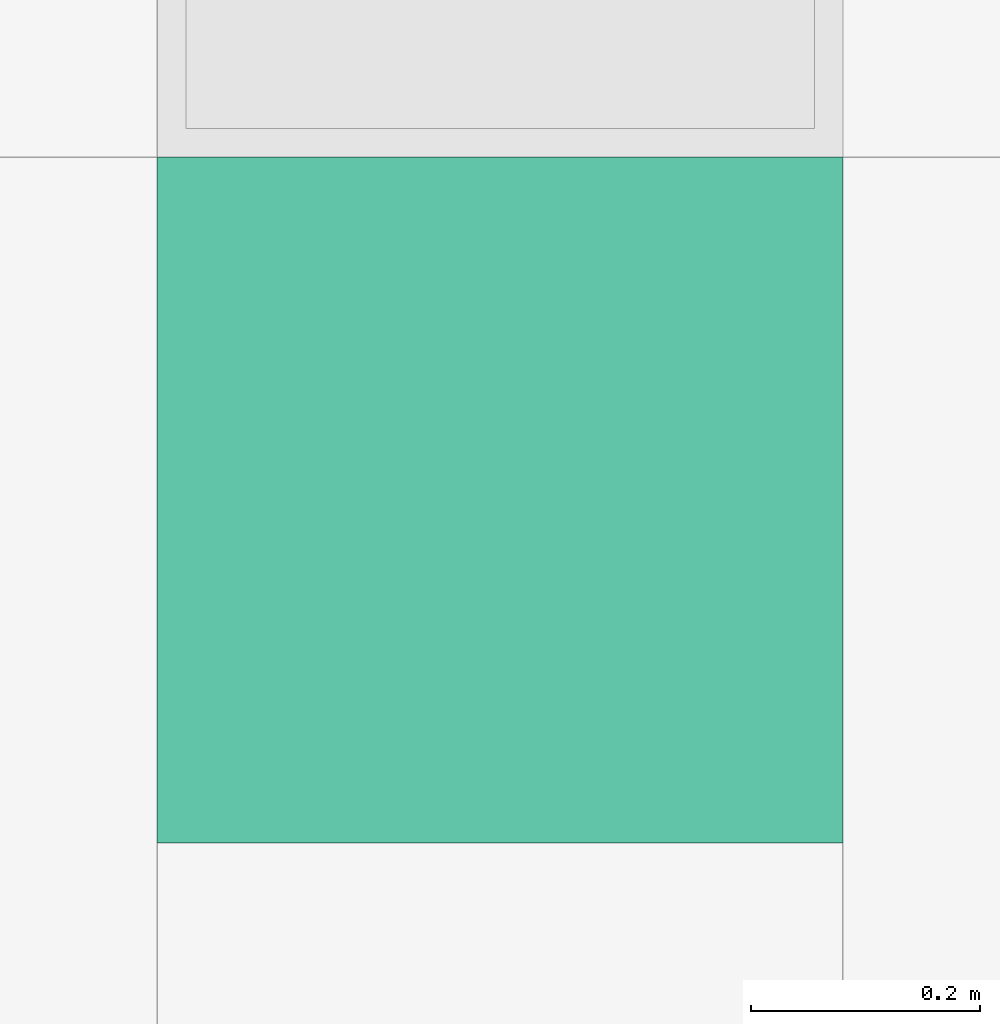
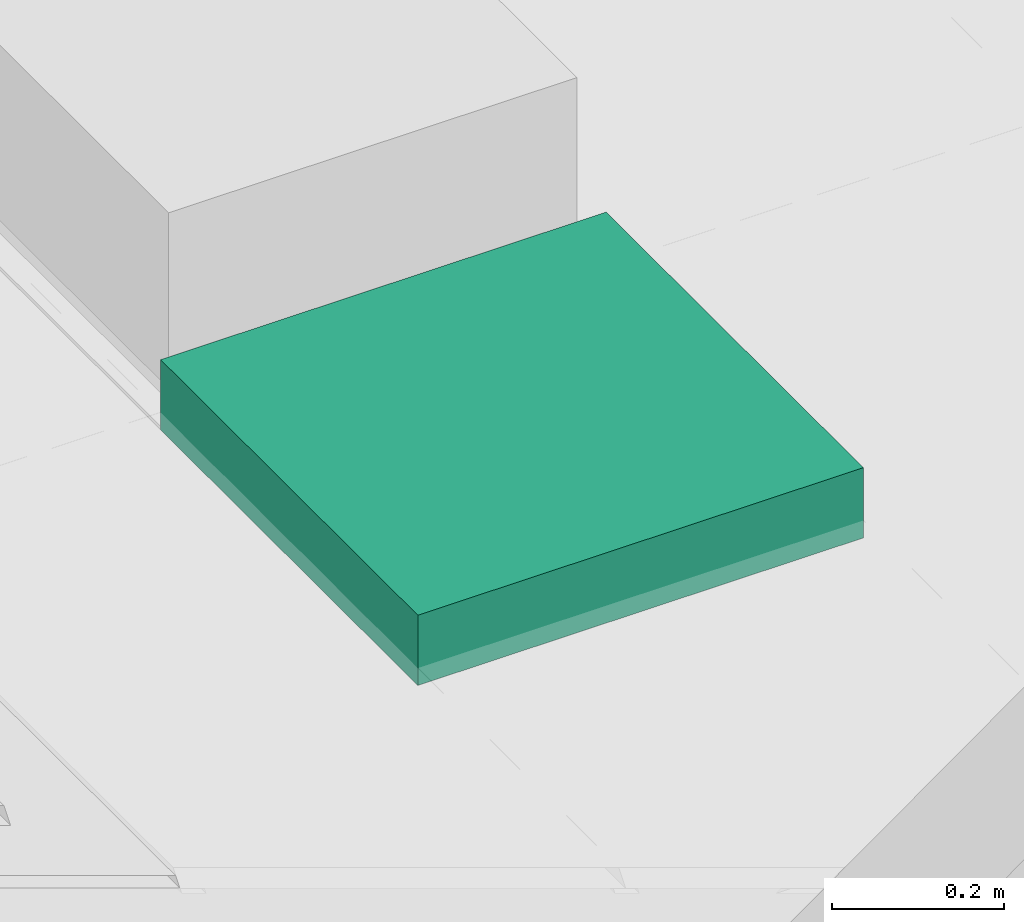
# One storey, part 217 of 347: 1 flow terminal.
"""IFC2X3 building model written with IfcOpenShell, lengths in millimetres."""

from ifc_helpers import new_model, entity, si_unit, converted_unit, derived_unit, money_unit, direction, frame, origin_with_axes, place, context, subcontext, project, spatial, open_shell, faceted_brep, surface_model, source, transform, mapped, type_object, type_shapes, element, save


model = new_model("IFC2X3")

# Units and contexts
model_context = context("Model", 3, precision=0.01, world=origin_with_axes(), true_north=direction((0.0, 1.0)))
plan_context = context("Plan", 3, precision=0.01, world=origin_with_axes(), true_north=direction((0.0, 1.0)))
body_context = subcontext(model_context, "Body", "Model", "MODEL_VIEW")
ifc_project = project(units=[si_unit("LENGTHUNIT", "METRE", prefix="MILLI"), si_unit("AREAUNIT", "SQUARE_METRE"), si_unit("VOLUMEUNIT", "CUBIC_METRE"), converted_unit("PLANEANGLEUNIT", "DEGREE", entity("IfcPlaneAngleMeasure", 0.0174532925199), si_unit("PLANEANGLEUNIT", "RADIAN"), dimensions=[0, 0, 0, 0, 0, 0, 0]), money_unit("EUR"), converted_unit("TIMEUNIT", "Year", entity("IfcTimeMeasure", 31556926.0), si_unit("TIMEUNIT", "SECOND"), dimensions=[0, 0, 1, 0, 0, 0, 0]), si_unit("MASSUNIT", "GRAM", prefix="KILO"), si_unit("THERMODYNAMICTEMPERATUREUNIT", "DEGREE_CELSIUS"), si_unit("LUMINOUSINTENSITYUNIT", "LUMEN"), si_unit("ENERGYUNIT", "JOULE", prefix="MEGA"), derived_unit("THERMALCONDUCTANCEUNIT", [(si_unit("POWERUNIT", "WATT"), 1), (si_unit("LENGTHUNIT", "METRE"), -1), (si_unit("THERMODYNAMICTEMPERATUREUNIT", "KELVIN"), -1)]), derived_unit("SPECIFICHEATCAPACITYUNIT", [(si_unit("ENERGYUNIT", "JOULE"), 1), (si_unit("MASSUNIT", "GRAM", prefix="KILO"), -1), (si_unit("THERMODYNAMICTEMPERATUREUNIT", "KELVIN"), -1)]), derived_unit("MASSDENSITYUNIT", [(si_unit("MASSUNIT", "GRAM", prefix="KILO"), 1), (si_unit("VOLUMEUNIT", "CUBIC_METRE"), -1)])], contexts=[model_context, plan_context])

# Site, building, storey
site_placement = place(None, origin_with_axes())
site = spatial("IfcSite", under=ifc_project, at=site_placement, Name="Site", CompositionType="ELEMENT")
building_placement = place(site_placement, origin_with_axes())
building = spatial("IfcBuilding", under=site, at=building_placement, Name="Naam gebouw", CompositionType="ELEMENT")
storey_placement = place(building_placement, origin_with_axes())
storey = spatial("IfcBuildingStorey", under=building, at=storey_placement, Name="begane grond", CompositionType="ELEMENT", Elevation=0.0)

# Flow terminal
lamp_type = type_object("IfcLampType", Name="TL plafond 25", PredefinedType="NOTDEFINED")
shared_shape = source(origin_with_axes(), body_context, "Body", "SurfaceModel", [
    faceted_brep([(0.0, 0.0, -100.0), (600.0, 0.0, -100.0), (600.0, 0.0, 0.0), (0.0, 0.0, 0.0), (0.0, 600.0, -100.0), (600.0, 600.0, -100.0), (40.0, 40.0, -100.0), (560.0, 40.0, -100.0), (560.0, 560.0, -100.0), (40.0, 560.0, -100.0), (600.0, 600.0, 0.0), (0.0, 600.0, 0.0), (40.0, 40.0, 0.0), (40.0, 560.0, 0.0), (560.0, 560.0, 0.0), (560.0, 40.0, 0.0)], [[[0, 1, 2, 3]], [[0, 4, 5, 1], [6, 7, 8, 9]], [[1, 5, 10, 2]], [[3, 2, 10, 11], [12, 13, 14, 15]], [[4, 0, 3, 11]], [[5, 4, 11, 10]], [[7, 6, 12, 15]], [[8, 7, 15, 14]], [[9, 8, 14, 13]], [[6, 9, 13, 12]]]),
    faceted_brep([(40.0, 40.0, -16.3333333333), (560.0, 40.0, -16.3333333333), (560.0, 40.0, 0.0), (40.0, 40.0, 0.0), (40.0, 560.0, -16.3333333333), (560.0, 560.0, -16.3333333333), (560.0, 560.0, 0.0), (40.0, 560.0, 0.0)], [[[0, 1, 2, 3]], [[0, 4, 5, 1]], [[1, 5, 6, 2]], [[3, 2, 6, 7]], [[4, 0, 3, 7]], [[5, 4, 7, 6]]]),
    surface_model("IfcShellBasedSurfaceModel", [(559.0, 41.0, -100.0), (40.0, 41.0, -100.0), (40.0, 559.0, -100.0), (559.0, 559.0, -100.0)], [open_shell([[[0, 1, 2, 3]]])]),
    faceted_brep([(40.0, 40.0, -100.0), (560.0, 40.0, -100.0), (560.0, 40.0, -60.0), (40.0, 40.0, -60.0), (40.0, 560.0, -100.0), (560.0, 560.0, -100.0), (41.0, 41.0, -100.0), (559.0, 41.0, -100.0), (559.0, 559.0, -100.0), (41.0, 559.0, -100.0), (560.0, 560.0, -60.0), (40.0, 560.0, -60.0), (41.0, 41.0, -60.0), (41.0, 559.0, -60.0), (559.0, 559.0, -60.0), (559.0, 41.0, -60.0)], [[[0, 1, 2, 3]], [[0, 4, 5, 1], [6, 7, 8, 9]], [[1, 5, 10, 2]], [[3, 2, 10, 11], [12, 13, 14, 15]], [[4, 0, 3, 11]], [[5, 4, 11, 10]], [[7, 6, 12, 15]], [[8, 7, 15, 14]], [[9, 8, 14, 13]], [[6, 9, 13, 12]]]),
    faceted_brep([(40.0, 144.0, -48.3333333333), (40.0, 149.740251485, -47.191526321), (560.0, 149.740251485, -47.191526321), (560.0, 144.0, -48.3333333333), (40.0, 138.259748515, -47.191526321), (40.0, 133.393398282, -43.9399350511), (40.0, 130.141807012, -39.0735848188), (40.0, 129.0, -33.3333333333), (40.0, 130.141807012, -27.5930818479), (40.0, 133.393398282, -22.7267316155), (40.0, 138.259748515, -19.4751403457), (40.0, 144.0, -18.3333333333), (40.0, 149.740251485, -19.4751403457), (40.0, 154.606601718, -22.7267316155), (40.0, 157.858192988, -27.5930818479), (40.0, 159.0, -33.3333333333), (40.0, 157.858192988, -39.0735848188), (40.0, 154.606601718, -43.9399350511), (40.0, 144.0, -46.3333333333), (40.0, 148.974884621, -45.343767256), (40.0, 153.192388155, -42.5257214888), (40.0, 156.010433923, -38.3082179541), (40.0, 157.0, -33.3333333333), (40.0, 156.010433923, -28.3584487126), (40.0, 153.192388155, -24.1409451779), (40.0, 148.974884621, -21.3228994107), (40.0, 144.0, -20.3333333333), (40.0, 139.025115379, -21.3228994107), (40.0, 134.807611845, -24.1409451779), (40.0, 131.989566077, -28.3584487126), (40.0, 131.0, -33.3333333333), (40.0, 131.989566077, -38.3082179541), (40.0, 134.807611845, -42.5257214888), (40.0, 139.025115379, -45.343767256), (560.0, 154.606601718, -43.9399350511), (560.0, 157.858192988, -39.0735848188), (560.0, 159.0, -33.3333333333), (560.0, 157.858192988, -27.5930818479), (560.0, 154.606601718, -22.7267316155), (560.0, 149.740251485, -19.4751403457), (560.0, 144.0, -18.3333333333), (560.0, 138.259748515, -19.4751403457), (560.0, 133.393398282, -22.7267316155), (560.0, 130.141807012, -27.5930818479), (560.0, 129.0, -33.3333333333), (560.0, 130.141807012, -39.0735848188), (560.0, 133.393398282, -43.9399350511), (560.0, 138.259748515, -47.191526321), (560.0, 144.0, -46.3333333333), (560.0, 139.025115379, -45.343767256), (560.0, 134.807611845, -42.5257214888), (560.0, 131.989566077, -38.3082179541), (560.0, 131.0, -33.3333333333), (560.0, 131.989566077, -28.3584487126), (560.0, 134.807611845, -24.1409451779), (560.0, 139.025115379, -21.3228994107), (560.0, 144.0, -20.3333333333), (560.0, 148.974884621, -21.3228994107), (560.0, 153.192388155, -24.1409451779), (560.0, 156.010433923, -28.3584487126), (560.0, 157.0, -33.3333333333), (560.0, 156.010433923, -38.3082179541), (560.0, 153.192388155, -42.5257214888), (560.0, 148.974884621, -45.343767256)], [[[0, 1, 2, 3]], [[0, 4, 5, 6, 7, 8, 9, 10, 11, 12, 13, 14, 15, 16, 17, 1], [18, 19, 20, 21, 22, 23, 24, 25, 26, 27, 28, 29, 30, 31, 32, 33]], [[1, 17, 34, 2]], [[3, 2, 34, 35, 36, 37, 38, 39, 40, 41, 42, 43, 44, 45, 46, 47], [48, 49, 50, 51, 52, 53, 54, 55, 56, 57, 58, 59, 60, 61, 62, 63]], [[4, 0, 3, 47]], [[5, 4, 47, 46]], [[6, 5, 46, 45]], [[7, 6, 45, 44]], [[8, 7, 44, 43]], [[9, 8, 43, 42]], [[10, 9, 42, 41]], [[11, 10, 41, 40]], [[12, 11, 40, 39]], [[13, 12, 39, 38]], [[14, 13, 38, 37]], [[15, 14, 37, 36]], [[16, 15, 36, 35]], [[17, 16, 35, 34]], [[19, 18, 48, 63]], [[20, 19, 63, 62]], [[21, 20, 62, 61]], [[22, 21, 61, 60]], [[23, 22, 60, 59]], [[24, 23, 59, 58]], [[25, 24, 58, 57]], [[26, 25, 57, 56]], [[27, 26, 56, 55]], [[28, 27, 55, 54]], [[29, 28, 54, 53]], [[30, 29, 53, 52]], [[31, 30, 52, 51]], [[32, 31, 51, 50]], [[33, 32, 50, 49]], [[18, 33, 49, 48]]]),
    faceted_brep([(40.0, 248.0, -48.3333333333), (40.0, 253.740251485, -47.191526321), (560.0, 253.740251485, -47.191526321), (560.0, 248.0, -48.3333333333), (40.0, 242.259748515, -47.191526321), (40.0, 237.393398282, -43.9399350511), (40.0, 234.141807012, -39.0735848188), (40.0, 233.0, -33.3333333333), (40.0, 234.141807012, -27.5930818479), (40.0, 237.393398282, -22.7267316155), (40.0, 242.259748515, -19.4751403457), (40.0, 248.0, -18.3333333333), (40.0, 253.740251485, -19.4751403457), (40.0, 258.606601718, -22.7267316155), (40.0, 261.858192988, -27.5930818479), (40.0, 263.0, -33.3333333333), (40.0, 261.858192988, -39.0735848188), (40.0, 258.606601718, -43.9399350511), (40.0, 248.0, -46.3333333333), (40.0, 252.974884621, -45.343767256), (40.0, 257.192388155, -42.5257214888), (40.0, 260.010433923, -38.3082179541), (40.0, 261.0, -33.3333333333), (40.0, 260.010433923, -28.3584487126), (40.0, 257.192388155, -24.1409451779), (40.0, 252.974884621, -21.3228994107), (40.0, 248.0, -20.3333333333), (40.0, 243.025115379, -21.3228994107), (40.0, 238.807611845, -24.1409451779), (40.0, 235.989566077, -28.3584487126), (40.0, 235.0, -33.3333333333), (40.0, 235.989566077, -38.3082179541), (40.0, 238.807611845, -42.5257214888), (40.0, 243.025115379, -45.343767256), (560.0, 258.606601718, -43.9399350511), (560.0, 261.858192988, -39.0735848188), (560.0, 263.0, -33.3333333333), (560.0, 261.858192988, -27.5930818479), (560.0, 258.606601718, -22.7267316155), (560.0, 253.740251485, -19.4751403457), (560.0, 248.0, -18.3333333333), (560.0, 242.259748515, -19.4751403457), (560.0, 237.393398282, -22.7267316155), (560.0, 234.141807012, -27.5930818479), (560.0, 233.0, -33.3333333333), (560.0, 234.141807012, -39.0735848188), (560.0, 237.393398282, -43.9399350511), (560.0, 242.259748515, -47.191526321), (560.0, 248.0, -46.3333333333), (560.0, 243.025115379, -45.343767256), (560.0, 238.807611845, -42.5257214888), (560.0, 235.989566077, -38.3082179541), (560.0, 235.0, -33.3333333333), (560.0, 235.989566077, -28.3584487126), (560.0, 238.807611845, -24.1409451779), (560.0, 243.025115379, -21.3228994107), (560.0, 248.0, -20.3333333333), (560.0, 252.974884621, -21.3228994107), (560.0, 257.192388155, -24.1409451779), (560.0, 260.010433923, -28.3584487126), (560.0, 261.0, -33.3333333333), (560.0, 260.010433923, -38.3082179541), (560.0, 257.192388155, -42.5257214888), (560.0, 252.974884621, -45.343767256)], [[[0, 1, 2, 3]], [[0, 4, 5, 6, 7, 8, 9, 10, 11, 12, 13, 14, 15, 16, 17, 1], [18, 19, 20, 21, 22, 23, 24, 25, 26, 27, 28, 29, 30, 31, 32, 33]], [[1, 17, 34, 2]], [[3, 2, 34, 35, 36, 37, 38, 39, 40, 41, 42, 43, 44, 45, 46, 47], [48, 49, 50, 51, 52, 53, 54, 55, 56, 57, 58, 59, 60, 61, 62, 63]], [[4, 0, 3, 47]], [[5, 4, 47, 46]], [[6, 5, 46, 45]], [[7, 6, 45, 44]], [[8, 7, 44, 43]], [[9, 8, 43, 42]], [[10, 9, 42, 41]], [[11, 10, 41, 40]], [[12, 11, 40, 39]], [[13, 12, 39, 38]], [[14, 13, 38, 37]], [[15, 14, 37, 36]], [[16, 15, 36, 35]], [[17, 16, 35, 34]], [[19, 18, 48, 63]], [[20, 19, 63, 62]], [[21, 20, 62, 61]], [[22, 21, 61, 60]], [[23, 22, 60, 59]], [[24, 23, 59, 58]], [[25, 24, 58, 57]], [[26, 25, 57, 56]], [[27, 26, 56, 55]], [[28, 27, 55, 54]], [[29, 28, 54, 53]], [[30, 29, 53, 52]], [[31, 30, 52, 51]], [[32, 31, 51, 50]], [[33, 32, 50, 49]], [[18, 33, 49, 48]]]),
    faceted_brep([(40.0, 352.0, -48.3333333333), (40.0, 357.740251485, -47.191526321), (560.0, 357.740251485, -47.191526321), (560.0, 352.0, -48.3333333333), (40.0, 346.259748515, -47.191526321), (40.0, 341.393398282, -43.9399350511), (40.0, 338.141807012, -39.0735848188), (40.0, 337.0, -33.3333333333), (40.0, 338.141807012, -27.5930818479), (40.0, 341.393398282, -22.7267316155), (40.0, 346.259748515, -19.4751403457), (40.0, 352.0, -18.3333333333), (40.0, 357.740251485, -19.4751403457), (40.0, 362.606601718, -22.7267316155), (40.0, 365.858192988, -27.5930818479), (40.0, 367.0, -33.3333333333), (40.0, 365.858192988, -39.0735848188), (40.0, 362.606601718, -43.9399350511), (40.0, 352.0, -46.3333333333), (40.0, 356.974884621, -45.343767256), (40.0, 361.192388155, -42.5257214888), (40.0, 364.010433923, -38.3082179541), (40.0, 365.0, -33.3333333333), (40.0, 364.010433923, -28.3584487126), (40.0, 361.192388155, -24.1409451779), (40.0, 356.974884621, -21.3228994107), (40.0, 352.0, -20.3333333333), (40.0, 347.025115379, -21.3228994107), (40.0, 342.807611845, -24.1409451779), (40.0, 339.989566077, -28.3584487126), (40.0, 339.0, -33.3333333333), (40.0, 339.989566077, -38.3082179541), (40.0, 342.807611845, -42.5257214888), (40.0, 347.025115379, -45.343767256), (560.0, 362.606601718, -43.9399350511), (560.0, 365.858192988, -39.0735848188), (560.0, 367.0, -33.3333333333), (560.0, 365.858192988, -27.5930818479), (560.0, 362.606601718, -22.7267316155), (560.0, 357.740251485, -19.4751403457), (560.0, 352.0, -18.3333333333), (560.0, 346.259748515, -19.4751403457), (560.0, 341.393398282, -22.7267316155), (560.0, 338.141807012, -27.5930818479), (560.0, 337.0, -33.3333333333), (560.0, 338.141807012, -39.0735848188), (560.0, 341.393398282, -43.9399350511), (560.0, 346.259748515, -47.191526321), (560.0, 352.0, -46.3333333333), (560.0, 347.025115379, -45.343767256), (560.0, 342.807611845, -42.5257214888), (560.0, 339.989566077, -38.3082179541), (560.0, 339.0, -33.3333333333), (560.0, 339.989566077, -28.3584487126), (560.0, 342.807611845, -24.1409451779), (560.0, 347.025115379, -21.3228994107), (560.0, 352.0, -20.3333333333), (560.0, 356.974884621, -21.3228994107), (560.0, 361.192388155, -24.1409451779), (560.0, 364.010433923, -28.3584487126), (560.0, 365.0, -33.3333333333), (560.0, 364.010433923, -38.3082179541), (560.0, 361.192388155, -42.5257214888), (560.0, 356.974884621, -45.343767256)], [[[0, 1, 2, 3]], [[0, 4, 5, 6, 7, 8, 9, 10, 11, 12, 13, 14, 15, 16, 17, 1], [18, 19, 20, 21, 22, 23, 24, 25, 26, 27, 28, 29, 30, 31, 32, 33]], [[1, 17, 34, 2]], [[3, 2, 34, 35, 36, 37, 38, 39, 40, 41, 42, 43, 44, 45, 46, 47], [48, 49, 50, 51, 52, 53, 54, 55, 56, 57, 58, 59, 60, 61, 62, 63]], [[4, 0, 3, 47]], [[5, 4, 47, 46]], [[6, 5, 46, 45]], [[7, 6, 45, 44]], [[8, 7, 44, 43]], [[9, 8, 43, 42]], [[10, 9, 42, 41]], [[11, 10, 41, 40]], [[12, 11, 40, 39]], [[13, 12, 39, 38]], [[14, 13, 38, 37]], [[15, 14, 37, 36]], [[16, 15, 36, 35]], [[17, 16, 35, 34]], [[19, 18, 48, 63]], [[20, 19, 63, 62]], [[21, 20, 62, 61]], [[22, 21, 61, 60]], [[23, 22, 60, 59]], [[24, 23, 59, 58]], [[25, 24, 58, 57]], [[26, 25, 57, 56]], [[27, 26, 56, 55]], [[28, 27, 55, 54]], [[29, 28, 54, 53]], [[30, 29, 53, 52]], [[31, 30, 52, 51]], [[32, 31, 51, 50]], [[33, 32, 50, 49]], [[18, 33, 49, 48]]]),
    faceted_brep([(40.0, 456.0, -48.3333333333), (40.0, 461.740251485, -47.191526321), (560.0, 461.740251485, -47.191526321), (560.0, 456.0, -48.3333333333), (40.0, 450.259748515, -47.191526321), (40.0, 445.393398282, -43.9399350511), (40.0, 442.141807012, -39.0735848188), (40.0, 441.0, -33.3333333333), (40.0, 442.141807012, -27.5930818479), (40.0, 445.393398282, -22.7267316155), (40.0, 450.259748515, -19.4751403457), (40.0, 456.0, -18.3333333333), (40.0, 461.740251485, -19.4751403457), (40.0, 466.606601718, -22.7267316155), (40.0, 469.858192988, -27.5930818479), (40.0, 471.0, -33.3333333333), (40.0, 469.858192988, -39.0735848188), (40.0, 466.606601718, -43.9399350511), (40.0, 456.0, -46.3333333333), (40.0, 460.974884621, -45.343767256), (40.0, 465.192388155, -42.5257214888), (40.0, 468.010433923, -38.3082179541), (40.0, 469.0, -33.3333333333), (40.0, 468.010433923, -28.3584487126), (40.0, 465.192388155, -24.1409451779), (40.0, 460.974884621, -21.3228994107), (40.0, 456.0, -20.3333333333), (40.0, 451.025115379, -21.3228994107), (40.0, 446.807611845, -24.1409451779), (40.0, 443.989566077, -28.3584487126), (40.0, 443.0, -33.3333333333), (40.0, 443.989566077, -38.3082179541), (40.0, 446.807611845, -42.5257214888), (40.0, 451.025115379, -45.343767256), (560.0, 466.606601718, -43.9399350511), (560.0, 469.858192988, -39.0735848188), (560.0, 471.0, -33.3333333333), (560.0, 469.858192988, -27.5930818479), (560.0, 466.606601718, -22.7267316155), (560.0, 461.740251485, -19.4751403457), (560.0, 456.0, -18.3333333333), (560.0, 450.259748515, -19.4751403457), (560.0, 445.393398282, -22.7267316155), (560.0, 442.141807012, -27.5930818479), (560.0, 441.0, -33.3333333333), (560.0, 442.141807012, -39.0735848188), (560.0, 445.393398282, -43.9399350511), (560.0, 450.259748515, -47.191526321), (560.0, 456.0, -46.3333333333), (560.0, 451.025115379, -45.343767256), (560.0, 446.807611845, -42.5257214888), (560.0, 443.989566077, -38.3082179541), (560.0, 443.0, -33.3333333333), (560.0, 443.989566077, -28.3584487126), (560.0, 446.807611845, -24.1409451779), (560.0, 451.025115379, -21.3228994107), (560.0, 456.0, -20.3333333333), (560.0, 460.974884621, -21.3228994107), (560.0, 465.192388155, -24.1409451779), (560.0, 468.010433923, -28.3584487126), (560.0, 469.0, -33.3333333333), (560.0, 468.010433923, -38.3082179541), (560.0, 465.192388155, -42.5257214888), (560.0, 460.974884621, -45.343767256)], [[[0, 1, 2, 3]], [[0, 4, 5, 6, 7, 8, 9, 10, 11, 12, 13, 14, 15, 16, 17, 1], [18, 19, 20, 21, 22, 23, 24, 25, 26, 27, 28, 29, 30, 31, 32, 33]], [[1, 17, 34, 2]], [[3, 2, 34, 35, 36, 37, 38, 39, 40, 41, 42, 43, 44, 45, 46, 47], [48, 49, 50, 51, 52, 53, 54, 55, 56, 57, 58, 59, 60, 61, 62, 63]], [[4, 0, 3, 47]], [[5, 4, 47, 46]], [[6, 5, 46, 45]], [[7, 6, 45, 44]], [[8, 7, 44, 43]], [[9, 8, 43, 42]], [[10, 9, 42, 41]], [[11, 10, 41, 40]], [[12, 11, 40, 39]], [[13, 12, 39, 38]], [[14, 13, 38, 37]], [[15, 14, 37, 36]], [[16, 15, 36, 35]], [[17, 16, 35, 34]], [[19, 18, 48, 63]], [[20, 19, 63, 62]], [[21, 20, 62, 61]], [[22, 21, 61, 60]], [[23, 22, 60, 59]], [[24, 23, 59, 58]], [[25, 24, 58, 57]], [[26, 25, 57, 56]], [[27, 26, 56, 55]], [[28, 27, 55, 54]], [[29, 28, 54, 53]], [[30, 29, 53, 52]], [[31, 30, 52, 51]], [[32, 31, 51, 50]], [[33, 32, 50, 49]], [[18, 33, 49, 48]]]),
])
type_shapes(lamp_type, [shared_shape])
flow_terminal_placement = place(storey_placement, frame((25325.0, 21412.5, 3295.0), z_axis=(0.0, 0.0, 1.0), x_axis=(1.0, 0.0, 0.0)))
element("IfcFlowTerminal", 1, at=flow_terminal_placement, inside=storey, type_object=lamp_type, Name="63_Lamp-x", ObjectType="Lamp", context=body_context, shape_type="MappedRepresentation", body=[
    mapped(shared_shape, transform((0.0, 0.0, 0.0))),
])

save(model, "model.ifc")
